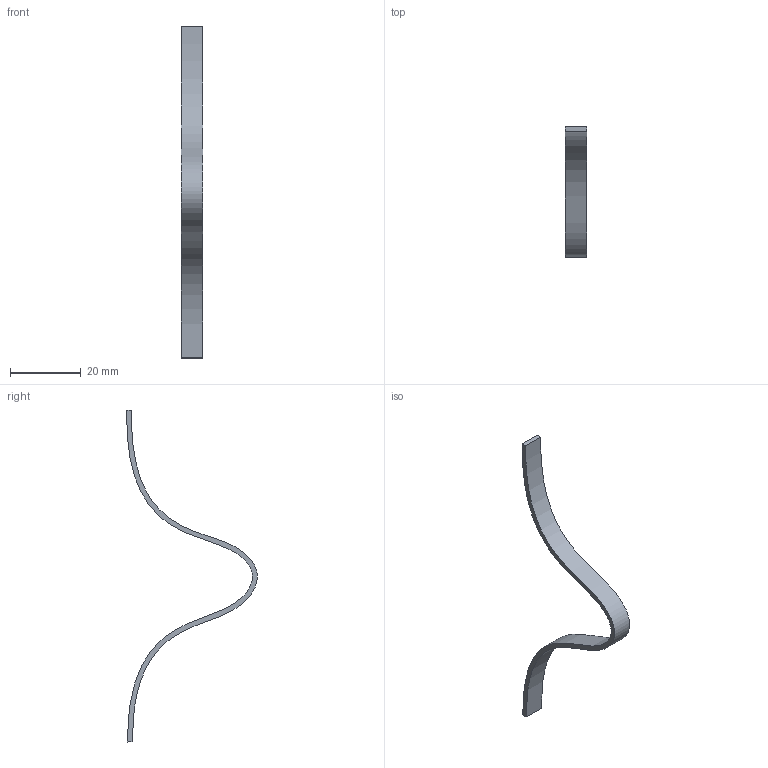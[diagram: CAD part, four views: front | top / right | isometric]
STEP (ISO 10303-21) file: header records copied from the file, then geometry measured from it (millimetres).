
FILE_DESCRIPTION(/* description */ ('STEP AP242 Edition 2','CAx-IF Rec.Pracs.---Representation and Presentation of Product Manufacturing Information (PMI)---4.0---2014-10-13','CAx-IF Rec.Pracs.---3D Tessellated Geometry---0.4---2014-09-14','2;1','CAx-IF Rec.Pracs.---User Defined Attributes---1.5---2016-08-15'),/* implementation_level */ '2;1');
FILE_NAME(/* name */ 'Final Build - Belt (1)',/* time_stamp */ '2026-08-31T23:26:07Z',/* author */ (''),/* organization */ (''),/* preprocessor_version */ 'ST-DEVELOPER v20',/* originating_system */ 'ONSHAPE BY PTC INC, 1.220',/* authorisation */ ' ');
FILE_SCHEMA (('AP242_MANAGED_MODEL_BASED_3D_ENGINEERING_MIM_LF { 1 0 10303 442 3 1 4 }'));
Length unit declared in the file: metre
Products named in the file (1): Belt
Bounding box: 6 x 36.85 x 93.7 mm (x, y, z)
Volume: 1045 mm3; surface area: 1922.2 mm2
Topology: 1 solids, 1 shells, 6 faces, 12 edges, 8 vertices
Faces by surface type: plane 4, bspline 2
Entity records: 346 total; most frequent: CARTESIAN_POINT 209, ORIENTED_EDGE 24, DIRECTION 18, EDGE_CURVE 12, VERTEX_POINT 8, LINE 8, VECTOR 8, EDGE_LOOP 6
